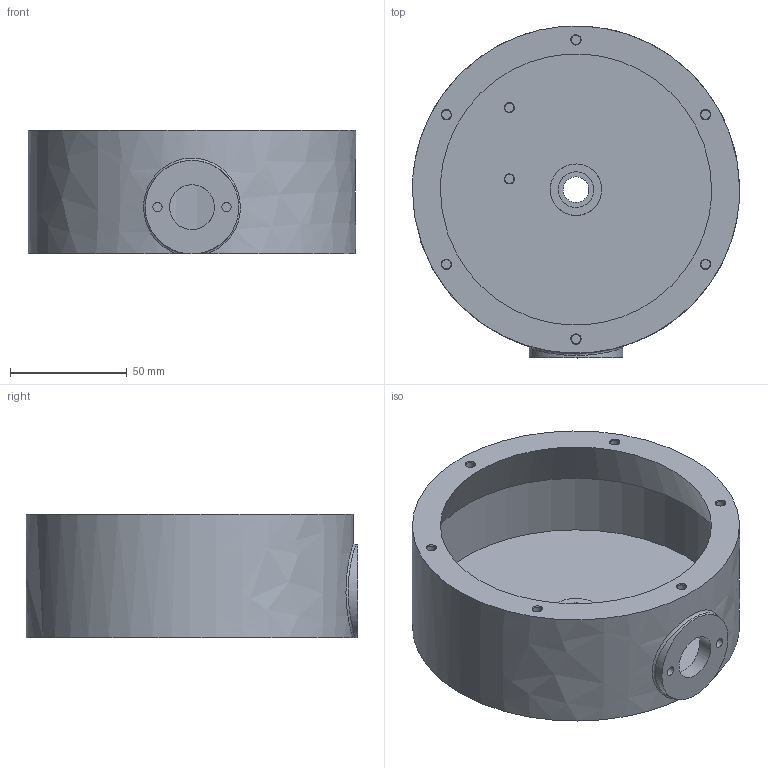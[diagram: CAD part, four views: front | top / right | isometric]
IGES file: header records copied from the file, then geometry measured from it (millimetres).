
Global section: file name: turntable v28; native system: unknown; preprocessor: unknown; author: unknown; organization: unknown; date: 20200329.203648; units: millimetre
Bounding box: 140 x 141.99 x 53 mm (x, y, z)
Volume: 181183.2 mm3; surface area: 78731.7 mm2
Topology: 1 solids, 1 shells, 45 faces, 84 edges, 52 vertices
Faces by surface type: bspline 45
